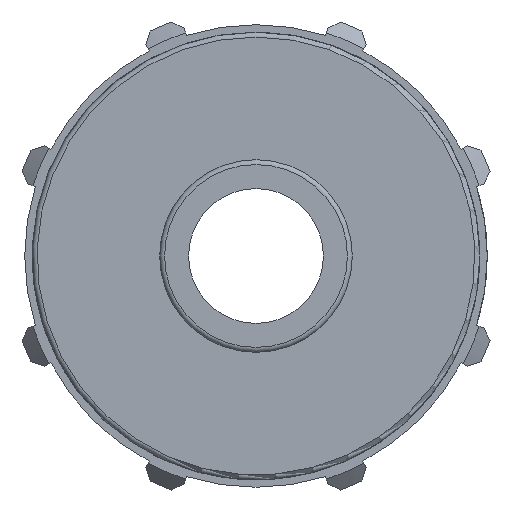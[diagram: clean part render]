
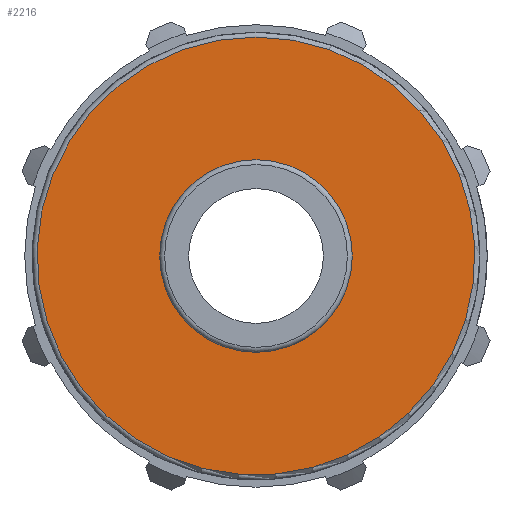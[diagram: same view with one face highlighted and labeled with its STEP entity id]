
A CAD part, left-side view. The second image highlights one B-rep face of the part: STEP entity #2216.
In plain terms, the highlighted planar face has unit normal (-1, 0, 0).
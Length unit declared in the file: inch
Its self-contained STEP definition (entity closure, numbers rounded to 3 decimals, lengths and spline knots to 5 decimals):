
#422=FACE_BOUND('',#639,.T.);
#435=PLANE('',#2401);
#514=FACE_OUTER_BOUND('',#638,.T.);
#638=EDGE_LOOP('',(#1534,#1535));
#639=EDGE_LOOP('',(#1536,#1537));
#746=CIRCLE('',#2341,0.4125);
#747=CIRCLE('',#2342,0.4125);
#784=CIRCLE('',#2399,0.93756);
#785=CIRCLE('',#2400,0.93756);
#863=VERTEX_POINT('',#3209);
#864=VERTEX_POINT('',#3210);
#930=VERTEX_POINT('',#3599);
#931=VERTEX_POINT('',#3601);
#1087=EDGE_CURVE('',#863,#864,#746,.T.);
#1088=EDGE_CURVE('',#864,#863,#747,.T.);
#1175=EDGE_CURVE('',#930,#931,#784,.T.);
#1176=EDGE_CURVE('',#931,#930,#785,.T.);
#1534=ORIENTED_EDGE('',*,*,#1176,.F.);
#1535=ORIENTED_EDGE('',*,*,#1175,.F.);
#1536=ORIENTED_EDGE('',*,*,#1087,.T.);
#1537=ORIENTED_EDGE('',*,*,#1088,.T.);
#2216=ADVANCED_FACE('',(#514,#422),#435,.T.);
#2341=AXIS2_PLACEMENT_3D('',#3211,#2589,#2590);
#2342=AXIS2_PLACEMENT_3D('',#3212,#2591,#2592);
#2399=AXIS2_PLACEMENT_3D('',#3602,#2731,#2732);
#2400=AXIS2_PLACEMENT_3D('',#3603,#2733,#2734);
#2401=AXIS2_PLACEMENT_3D('',#3604,#2735,#2736);
#2589=DIRECTION('center_axis',(1.,0.,0.));
#2590=DIRECTION('ref_axis',(0.,0.,-1.));
#2591=DIRECTION('center_axis',(1.,0.,0.));
#2592=DIRECTION('ref_axis',(0.,0.,-1.));
#2731=DIRECTION('center_axis',(1.,0.,0.));
#2732=DIRECTION('ref_axis',(0.,-0.552,0.834));
#2733=DIRECTION('center_axis',(1.,0.,0.));
#2734=DIRECTION('ref_axis',(0.,-0.552,0.834));
#2735=DIRECTION('center_axis',(-1.,0.,0.));
#2736=DIRECTION('ref_axis',(0.,0.,1.));
#3209=CARTESIAN_POINT('',(0.67,0.4125,0.));
#3210=CARTESIAN_POINT('',(0.67,-0.4125,0.));
#3211=CARTESIAN_POINT('Origin',(0.67,0.,0.));
#3212=CARTESIAN_POINT('Origin',(0.67,0.,0.));
#3599=CARTESIAN_POINT('',(0.67,0.,0.93756));
#3601=CARTESIAN_POINT('',(0.67,0.51727,-0.78195));
#3602=CARTESIAN_POINT('Origin',(0.67,0.,0.));
#3603=CARTESIAN_POINT('Origin',(0.67,0.,0.));
#3604=CARTESIAN_POINT('Origin',(0.67,0.9585,0.));
